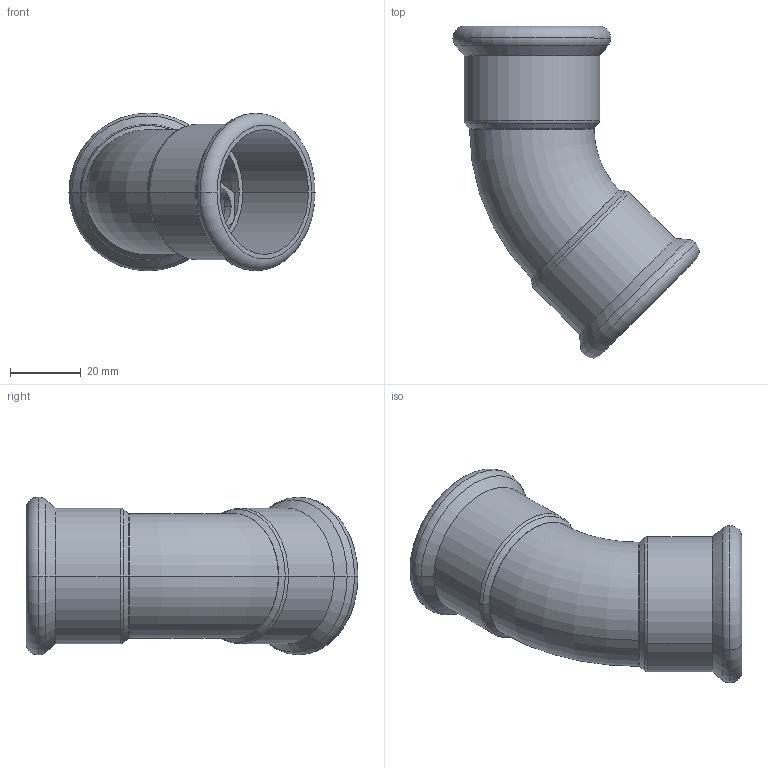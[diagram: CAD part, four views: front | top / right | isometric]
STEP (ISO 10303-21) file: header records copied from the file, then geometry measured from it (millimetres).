
FILE_DESCRIPTION(('OneSpaceDesigner STEP Export'),'2;1');
FILE_NAME('R2713 35x35.stp','2010-06-10T 8:30:00',(''),(''),'OneSpace Designer STEP processor for AP214 (Solid Model)','OneSpace Modeling 15.00A 14-Mar-2007 (C) CoCreate Software GmbH','');
FILE_SCHEMA(('AUTOMOTIVE_DESIGN { 1 0 10303 214 1 1 1 1 }'));
Length unit declared in the file: millimetre
Products named in the file (2): R2713_35x35
Assembly tree (1 placements, depth 2):
  R2713_35x35
    R2713_35x35
Bounding box: 69.49 x 93.72 x 44.55 mm (x, y, z)
Volume: 21784 mm3; surface area: 24247.8 mm2
Topology: 1 solids, 1 shells, 122 faces, 300 edges, 190 vertices
Faces by surface type: plane 60, cylinder 38, torus 16, cone 8
Entity records: 3199 total; most frequent: ORIENTED_EDGE 600, CARTESIAN_POINT 518, DIRECTION 478, EDGE_CURVE 300, VERTEX_POINT 190, VECTOR 178, LINE 178, AXIS2_PLACEMENT_3D 150
